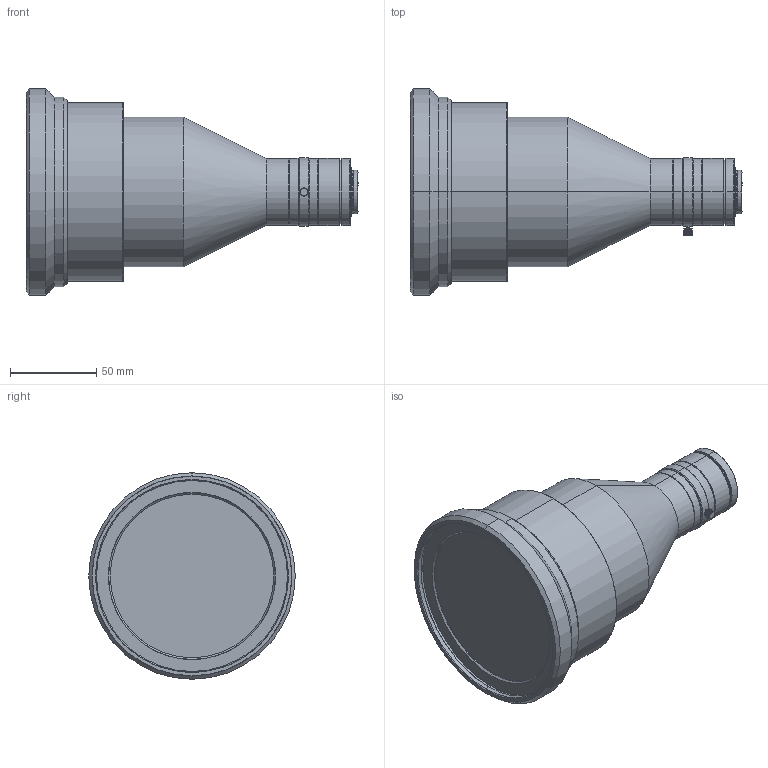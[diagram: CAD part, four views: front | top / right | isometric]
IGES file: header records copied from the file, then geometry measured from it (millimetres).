
Start section: SolidWorks IGES file using analytic representation for surfaces
Bounding box: 192.97 x 120 x 120 mm (x, y, z)
Surface area: 65658 mm2 (no closed solid volume)
Topology: 0 solids, 0 shells, 271 faces, 3244 edges, 3236 vertices
Faces by surface type: revolution 205, bspline 66
